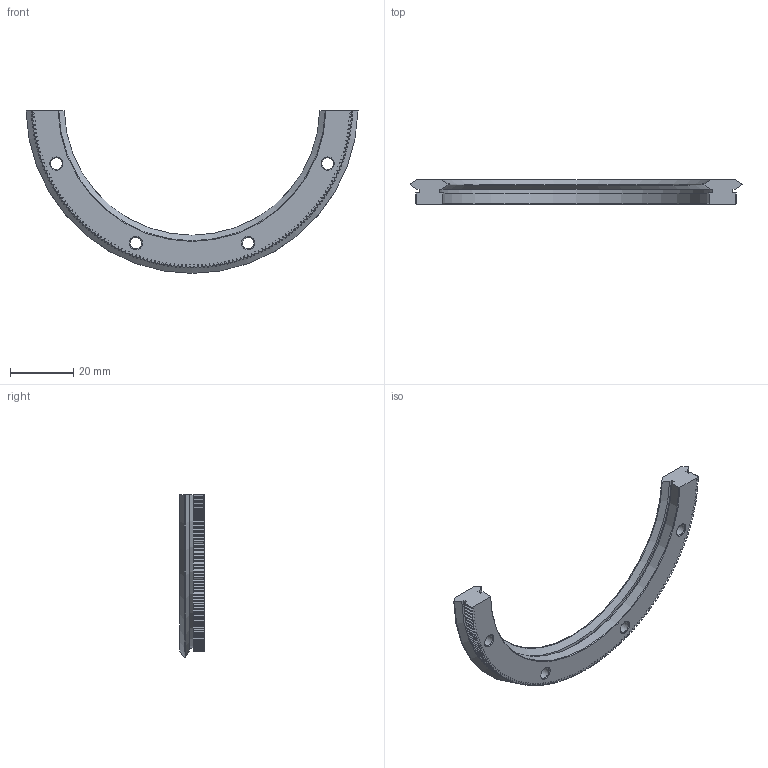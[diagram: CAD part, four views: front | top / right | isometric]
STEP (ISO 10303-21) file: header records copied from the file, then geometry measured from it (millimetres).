
FILE_DESCRIPTION( ( 'STEP AP203' ), '1' );
FILE_NAME( 'p:/temp/worker_47/temp/exporttempdir_4764_853_0hjQ6/format_0/R12 93 R180 P.stp', '2021-08-30T04:09:40', ( 'License CC BY-ND 4.0' ), ( 'CADENAS' ), ' ', 'PARTsolutions', ' ' );
FILE_SCHEMA( ( 'CONFIG_CONTROL_DESIGN' ) );
Length unit declared in the file: millimetre
Products named in the file (1): _R12 93 R180 P
Bounding box: 105.08 x 7.7 x 51.55 mm (x, y, z)
Volume: 9110.9 mm3; surface area: 6685.6 mm2
Topology: 1 solids, 1 shells, 658 faces, 1952 edges, 1300 vertices
Faces by surface type: plane 262, cylinder 260, cone 134, torus 2
Full cylindrical faces by diameter (mm): 3.7 x4, 6 x4
Entity records: 22492 total; most frequent: CARTESIAN_POINT 4718, ORIENTED_EDGE 3880, DIRECTION 3650, EDGE_CURVE 1940, AXIS2_PLACEMENT_3D 1317, VERTEX_POINT 1301, LINE 1016, VECTOR 1016
